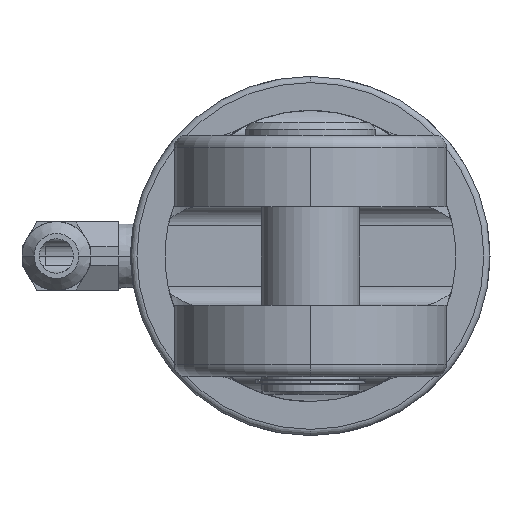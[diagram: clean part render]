
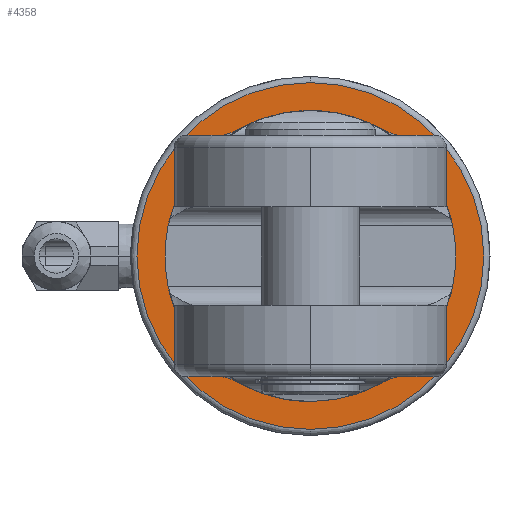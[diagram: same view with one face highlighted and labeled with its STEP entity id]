
A CAD part, left-side view. The second image highlights one B-rep face of the part: STEP entity #4358.
In plain terms, the highlighted planar face has unit normal (-1, 0, 0).
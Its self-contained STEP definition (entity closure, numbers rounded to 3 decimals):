
#11 = CARTESIAN_POINT ( 'NONE',  ( -441., 0., 0. ) ) ;
#25 = VERTEX_POINT ( 'NONE', #7740 ) ;
#26 = ORIENTED_EDGE ( 'NONE', *, *, #5214, .T. ) ;
#39 = VERTEX_POINT ( 'NONE', #1708 ) ;
#107 = CARTESIAN_POINT ( 'NONE',  ( -441., 28., 0. ) ) ;
#135 = ORIENTED_EDGE ( 'NONE', *, *, #1640, .T. ) ;
#183 = CARTESIAN_POINT ( 'NONE',  ( -441., 22.973, -4.95 ) ) ;
#422 = AXIS2_PLACEMENT_3D ( 'NONE', #11, #2011, #2627 ) ;
#468 = ORIENTED_EDGE ( 'NONE', *, *, #732, .T. ) ;
#638 = DIRECTION ( 'NONE',  ( -1., 0., 0. ) ) ;
#716 = AXIS2_PLACEMENT_3D ( 'NONE', #6780, #4093, #8135 ) ;
#722 = CARTESIAN_POINT ( 'NONE',  ( -441., 0., 0. ) ) ;
#732 = EDGE_CURVE ( 'NONE', #3504, #1634, #1419, .T. ) ;
#753 = CARTESIAN_POINT ( 'NONE',  ( -441., 0., -23.5 ) ) ;
#776 = ORIENTED_EDGE ( 'NONE', *, *, #3681, .F. ) ;
#1143 = CIRCLE ( 'NONE', #5126, 23.5 ) ;
#1164 = CARTESIAN_POINT ( 'NONE',  ( -441., 0., 28. ) ) ;
#1193 = DIRECTION ( 'NONE',  ( -1., 0., 0. ) ) ;
#1306 = EDGE_CURVE ( 'NONE', #2159, #25, #8359, .T. ) ;
#1400 = DIRECTION ( 'NONE',  ( 0., 0., -1. ) ) ;
#1419 = CIRCLE ( 'NONE', #6951, 28. ) ;
#1634 = VERTEX_POINT ( 'NONE', #3869 ) ;
#1640 = EDGE_CURVE ( 'NONE', #2159, #5498, #2865, .T. ) ;
#1708 = CARTESIAN_POINT ( 'NONE',  ( -441., 22.973, 4.95 ) ) ;
#2011 = DIRECTION ( 'NONE',  ( -1., 0., 0. ) ) ;
#2129 = CIRCLE ( 'NONE', #8464, 28. ) ;
#2159 = VERTEX_POINT ( 'NONE', #8194 ) ;
#2165 = CIRCLE ( 'NONE', #2356, 23.5 ) ;
#2237 = DIRECTION ( 'NONE',  ( 0., 0., -1. ) ) ;
#2278 = EDGE_LOOP ( 'NONE', ( #468, #26 ) ) ;
#2356 = AXIS2_PLACEMENT_3D ( 'NONE', #7427, #3396, #8107 ) ;
#2627 = DIRECTION ( 'NONE',  ( 0., 0., -1. ) ) ;
#2865 = CIRCLE ( 'NONE', #716, 23.5 ) ;
#3396 = DIRECTION ( 'NONE',  ( 1., 0., 0. ) ) ;
#3504 = VERTEX_POINT ( 'NONE', #1164 ) ;
#3681 = EDGE_CURVE ( 'NONE', #39, #4931, #5978, .T. ) ;
#3869 = CARTESIAN_POINT ( 'NONE',  ( -441., 0., -28. ) ) ;
#4002 = FACE_BOUND ( 'NONE', #5797, .T. ) ;
#4093 = DIRECTION ( 'NONE',  ( 1., 0., 0. ) ) ;
#4358 = ADVANCED_FACE ( 'NONE', ( #4002, #7172 ), #5542, .F. ) ;
#4670 = CARTESIAN_POINT ( 'NONE',  ( -441., 0., 0. ) ) ;
#4931 = VERTEX_POINT ( 'NONE', #183 ) ;
#5078 = ORIENTED_EDGE ( 'NONE', *, *, #1306, .F. ) ;
#5126 = AXIS2_PLACEMENT_3D ( 'NONE', #722, #5400, #1400 ) ;
#5178 = CARTESIAN_POINT ( 'NONE',  ( -441., 0., 0. ) ) ;
#5214 = EDGE_CURVE ( 'NONE', #1634, #3504, #2129, .T. ) ;
#5335 = DIRECTION ( 'NONE',  ( 0., 0., -1. ) ) ;
#5400 = DIRECTION ( 'NONE',  ( 1., 0., 0. ) ) ;
#5498 = VERTEX_POINT ( 'NONE', #753 ) ;
#5542 = PLANE ( 'NONE',  #6682 ) ;
#5797 = EDGE_LOOP ( 'NONE', ( #5078, #135, #8057, #776, #8246 ) ) ;
#5842 = DIRECTION ( 'NONE',  ( 0., 0., 1. ) ) ;
#5978 = CIRCLE ( 'NONE', #6275, 23.5 ) ;
#6210 = DIRECTION ( 'NONE',  ( 1., 0., 0. ) ) ;
#6259 = DIRECTION ( 'NONE',  ( -1., 0., 0. ) ) ;
#6275 = AXIS2_PLACEMENT_3D ( 'NONE', #4670, #638, #5335 ) ;
#6351 = DIRECTION ( 'NONE',  ( 0., 0., 1. ) ) ;
#6682 = AXIS2_PLACEMENT_3D ( 'NONE', #107, #6210, #2237 ) ;
#6780 = CARTESIAN_POINT ( 'NONE',  ( -441., 0., 0. ) ) ;
#6951 = AXIS2_PLACEMENT_3D ( 'NONE', #7593, #6259, #6351 ) ;
#7172 = FACE_OUTER_BOUND ( 'NONE', #2278, .T. ) ;
#7427 = CARTESIAN_POINT ( 'NONE',  ( -441., 0., 0. ) ) ;
#7441 = EDGE_CURVE ( 'NONE', #5498, #4931, #1143, .T. ) ;
#7593 = CARTESIAN_POINT ( 'NONE',  ( -441., 0., 0. ) ) ;
#7740 = CARTESIAN_POINT ( 'NONE',  ( -441., -22.973, 4.95 ) ) ;
#8057 = ORIENTED_EDGE ( 'NONE', *, *, #7441, .T. ) ;
#8107 = DIRECTION ( 'NONE',  ( 0., 0., -1. ) ) ;
#8135 = DIRECTION ( 'NONE',  ( 0., 0., -1. ) ) ;
#8161 = EDGE_CURVE ( 'NONE', #39, #25, #2165, .T. ) ;
#8194 = CARTESIAN_POINT ( 'NONE',  ( -441., -22.973, -4.95 ) ) ;
#8246 = ORIENTED_EDGE ( 'NONE', *, *, #8161, .T. ) ;
#8359 = CIRCLE ( 'NONE', #422, 23.5 ) ;
#8464 = AXIS2_PLACEMENT_3D ( 'NONE', #5178, #1193, #5842 ) ;
